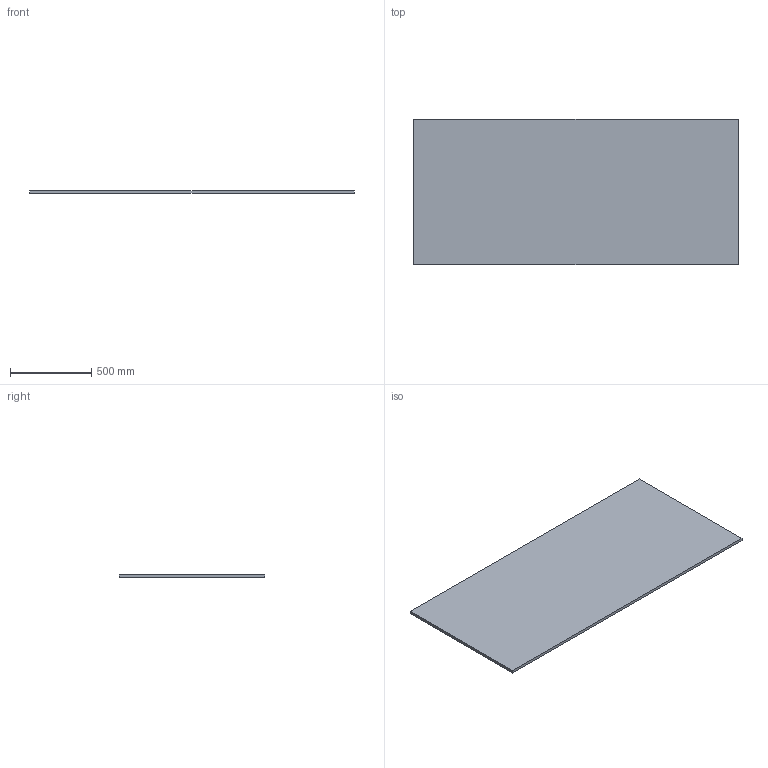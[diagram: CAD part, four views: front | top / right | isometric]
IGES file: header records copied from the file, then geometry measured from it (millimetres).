
Start section: 3D InterOp IGES (Version 23 0 1), Spatial Corp. Copyright (c) 1999-2007.
Global section: file name: DAV SO 90 B.igs; native system: Spatial Corp.; preprocessor: 3D InterOp GENERIC/IGES 3.0; author: Noname; organization: Noname; date: 20130608.083711; units: millimetre
Bounding box: 1996 x 896 x 18 mm (x, y, z)
Surface area: 3680944 mm2 (no closed solid volume)
Topology: 0 solids, 0 shells, 6 faces, 24 edges, 24 vertices
Faces by surface type: extrusion 6
